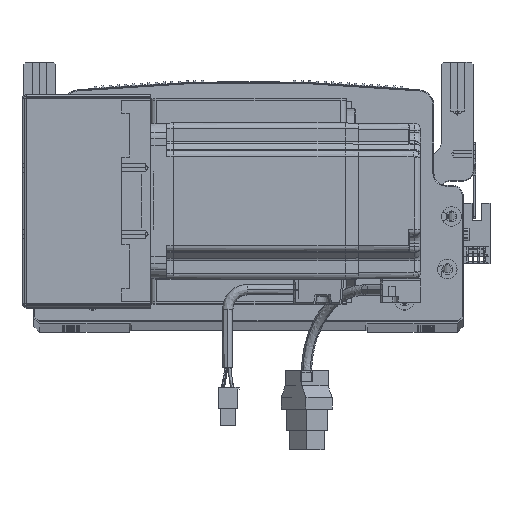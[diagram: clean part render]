
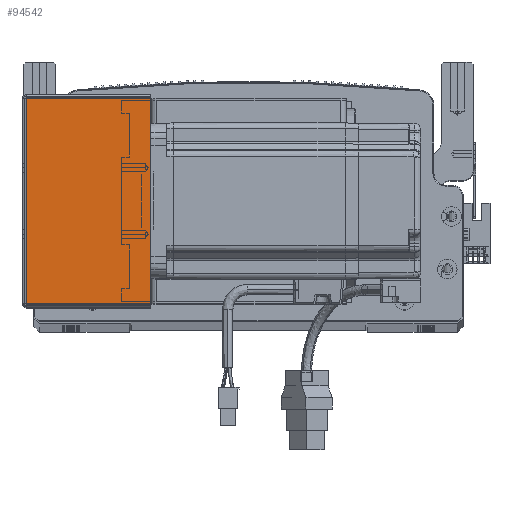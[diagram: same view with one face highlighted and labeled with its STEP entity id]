
A CAD part, top view. The second image highlights one B-rep face of the part: STEP entity #94542.
In plain terms, the highlighted planar face has unit normal (0, 0, 1) as drawn and (0, 0, -1) by its records, which use the part's own axes.
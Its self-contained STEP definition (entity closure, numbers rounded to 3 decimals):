
#162 = VERTEX_POINT ( 'NONE', #53530 ) ;
#1846 = VECTOR ( 'NONE', #20654, 1000. ) ;
#5572 = EDGE_CURVE ( 'NONE', #74145, #162, #22647, .T. ) ;
#9140 = CARTESIAN_POINT ( 'NONE',  ( 0.737, 0.707, -205.5 ) ) ;
#9590 = DIRECTION ( 'NONE',  ( 0., -1., 0. ) ) ;
#10734 = AXIS2_PLACEMENT_3D ( 'NONE', #80055, #64920, #34888 ) ;
#13580 = CARTESIAN_POINT ( 'NONE',  ( 0., 105.293, -205.5 ) ) ;
#15657 = LINE ( 'NONE', #74057, #81517 ) ;
#20654 = DIRECTION ( 'NONE',  ( 1., 0., 0. ) ) ;
#22647 = LINE ( 'NONE', #13580, #1846 ) ;
#27503 = PLANE ( 'NONE',  #10734 ) ;
#31400 = ORIENTED_EDGE ( 'NONE', *, *, #94283, .F. ) ;
#31974 = CARTESIAN_POINT ( 'NONE',  ( 64.5, 0.707, -205.5 ) ) ;
#34192 = CARTESIAN_POINT ( 'NONE',  ( 0.737, 105.293, -205.5 ) ) ;
#34888 = DIRECTION ( 'NONE',  ( 1., 0., 0. ) ) ;
#35451 = CARTESIAN_POINT ( 'NONE',  ( 0.737, 0., -205.5 ) ) ;
#36389 = VECTOR ( 'NONE', #73859, 1000. ) ;
#39467 = LINE ( 'NONE', #68633, #87949 ) ;
#51405 = LINE ( 'NONE', #35451, #36389 ) ;
#53530 = CARTESIAN_POINT ( 'NONE',  ( 64.5, 105.293, -205.5 ) ) ;
#54849 = ORIENTED_EDGE ( 'NONE', *, *, #83682, .F. ) ;
#57717 = EDGE_LOOP ( 'NONE', ( #54849, #75232, #58725, #31400 ) ) ;
#58725 = ORIENTED_EDGE ( 'NONE', *, *, #80131, .T. ) ;
#64256 = VERTEX_POINT ( 'NONE', #31974 ) ;
#64920 = DIRECTION ( 'NONE',  ( 0., 0., 1. ) ) ;
#68633 = CARTESIAN_POINT ( 'NONE',  ( 64.5, 0., -205.5 ) ) ;
#72256 = FACE_OUTER_BOUND ( 'NONE', #57717, .T. ) ;
#73859 = DIRECTION ( 'NONE',  ( 0., -1., 0. ) ) ;
#74057 = CARTESIAN_POINT ( 'NONE',  ( 0., 0.707, -205.5 ) ) ;
#74145 = VERTEX_POINT ( 'NONE', #34192 ) ;
#74375 = DIRECTION ( 'NONE',  ( 1., 0., 0. ) ) ;
#75232 = ORIENTED_EDGE ( 'NONE', *, *, #5572, .T. ) ;
#80055 = CARTESIAN_POINT ( 'NONE',  ( 0., 0., -205.5 ) ) ;
#80131 = EDGE_CURVE ( 'NONE', #162, #64256, #39467, .T. ) ;
#81517 = VECTOR ( 'NONE', #74375, 1000. ) ;
#83682 = EDGE_CURVE ( 'NONE', #74145, #86180, #51405, .T. ) ;
#86180 = VERTEX_POINT ( 'NONE', #9140 ) ;
#87949 = VECTOR ( 'NONE', #9590, 1000. ) ;
#94283 = EDGE_CURVE ( 'NONE', #86180, #64256, #15657, .T. ) ;
#94542 = ADVANCED_FACE ( 'NONE', ( #72256 ), #27503, .F. ) ;
